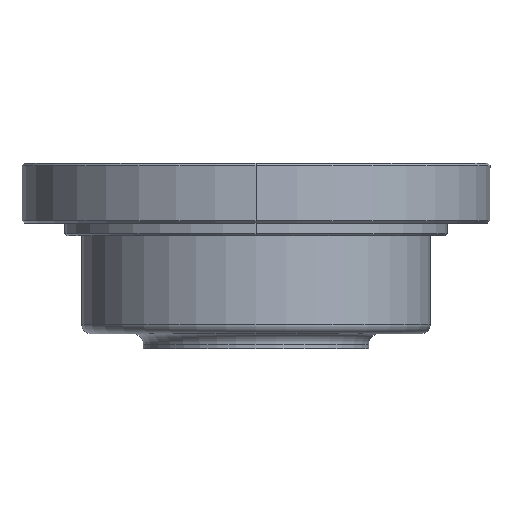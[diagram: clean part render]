
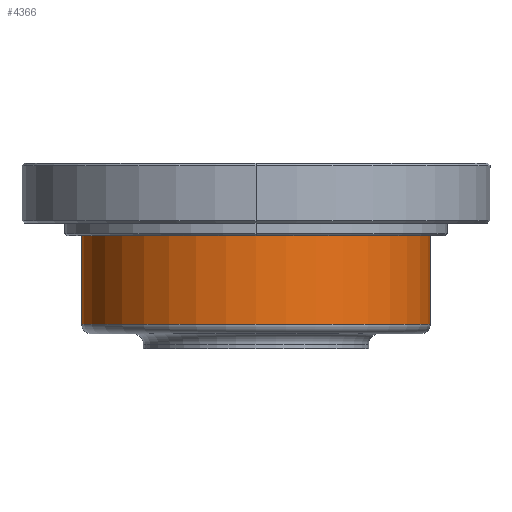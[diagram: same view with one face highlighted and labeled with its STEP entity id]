
A CAD part, front view. The second image highlights one B-rep face of the part: STEP entity #4366.
In plain terms, the highlighted cylindrical face has radius 41 mm (diameter 82 mm), a partial arc.
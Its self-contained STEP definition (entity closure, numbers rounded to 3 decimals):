
#127 = DIRECTION ( 'NONE',  ( 1., 0., 0. ) ) ;
#1372 = DIRECTION ( 'NONE',  ( 0., 0., -1. ) ) ;
#1460 = VERTEX_POINT ( 'NONE', #7277 ) ;
#1689 = DIRECTION ( 'NONE',  ( 1., 0., 0. ) ) ;
#2343 = VERTEX_POINT ( 'NONE', #8671 ) ;
#2382 = AXIS2_PLACEMENT_3D ( 'NONE', #10966, #127, #9983 ) ;
#2532 = ORIENTED_EDGE ( 'NONE', *, *, #10097, .T. ) ;
#2561 = CARTESIAN_POINT ( 'NONE',  ( 26.767, 0., -41. ) ) ;
#3332 = CARTESIAN_POINT ( 'NONE',  ( 26.767, 0., 41. ) ) ;
#3921 = CARTESIAN_POINT ( 'NONE',  ( 26.767, 0., 0. ) ) ;
#4366 = ADVANCED_FACE ( 'NONE', ( #10604 ), #8470, .T. ) ;
#4612 = CARTESIAN_POINT ( 'NONE',  ( -2.733, 0., 41. ) ) ;
#4922 = VERTEX_POINT ( 'NONE', #10023 ) ;
#5149 = EDGE_LOOP ( 'NONE', ( #8068, #2532, #7089, #7877 ) ) ;
#5153 = CIRCLE ( 'NONE', #2382, 41. ) ;
#5256 = AXIS2_PLACEMENT_3D ( 'NONE', #3921, #7162, #1372 ) ;
#5636 = VERTEX_POINT ( 'NONE', #4612 ) ;
#6710 = DIRECTION ( 'NONE',  ( 1., 0., 0. ) ) ;
#6865 = EDGE_CURVE ( 'NONE', #2343, #1460, #7128, .T. ) ;
#6958 = VECTOR ( 'NONE', #1689, 1000. ) ;
#7089 = ORIENTED_EDGE ( 'NONE', *, *, #9666, .F. ) ;
#7128 = LINE ( 'NONE', #2561, #9401 ) ;
#7162 = DIRECTION ( 'NONE',  ( 1., 0., 0. ) ) ;
#7277 = CARTESIAN_POINT ( 'NONE',  ( 21.067, 0., -41. ) ) ;
#7316 = DIRECTION ( 'NONE',  ( 1., 0., 0. ) ) ;
#7877 = ORIENTED_EDGE ( 'NONE', *, *, #6865, .F. ) ;
#8068 = ORIENTED_EDGE ( 'NONE', *, *, #9025, .T. ) ;
#8356 = LINE ( 'NONE', #3332, #6958 ) ;
#8470 = CYLINDRICAL_SURFACE ( 'NONE', #5256, 41. ) ;
#8508 = CIRCLE ( 'NONE', #10684, 41. ) ;
#8594 = CARTESIAN_POINT ( 'NONE',  ( -2.733, 0., 0. ) ) ;
#8671 = CARTESIAN_POINT ( 'NONE',  ( -2.733, 0., -41. ) ) ;
#9025 = EDGE_CURVE ( 'NONE', #2343, #5636, #8508, .T. ) ;
#9401 = VECTOR ( 'NONE', #7316, 1000. ) ;
#9666 = EDGE_CURVE ( 'NONE', #1460, #4922, #5153, .T. ) ;
#9983 = DIRECTION ( 'NONE',  ( 0., 0., -1. ) ) ;
#10023 = CARTESIAN_POINT ( 'NONE',  ( 21.067, 0., 41. ) ) ;
#10097 = EDGE_CURVE ( 'NONE', #5636, #4922, #8356, .T. ) ;
#10459 = DIRECTION ( 'NONE',  ( 0., 0., -1. ) ) ;
#10604 = FACE_OUTER_BOUND ( 'NONE', #5149, .T. ) ;
#10684 = AXIS2_PLACEMENT_3D ( 'NONE', #8594, #6710, #10459 ) ;
#10966 = CARTESIAN_POINT ( 'NONE',  ( 21.067, 0., 0. ) ) ;
